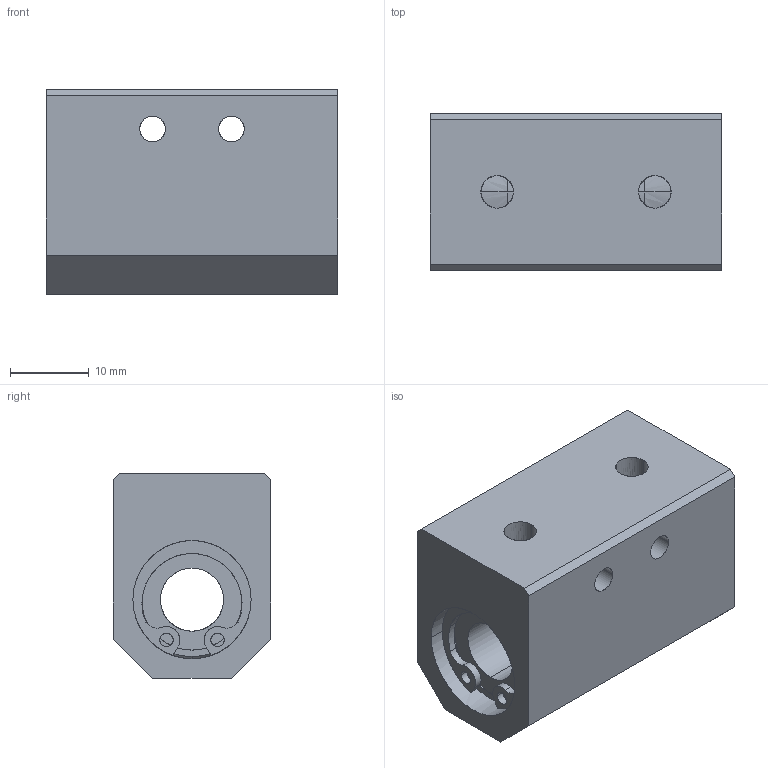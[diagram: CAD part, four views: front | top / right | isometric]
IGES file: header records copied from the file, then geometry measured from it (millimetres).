
Global section: file name: No Iges File Name specified; native system: AutoDesk Inventor R10; preprocessor: AutoDesk Inventor Iges Exporter R10; author: No Author specified; organization: No Organization specified; date: 20101216.151549; units: millimetre
Bounding box: 37 x 20 x 26 mm (x, y, z)
Surface area: 6273.5 mm2 (no closed solid volume)
Topology: 0 solids, 0 shells, 102 faces, 808 edges, 808 vertices
Faces by surface type: bspline 102
